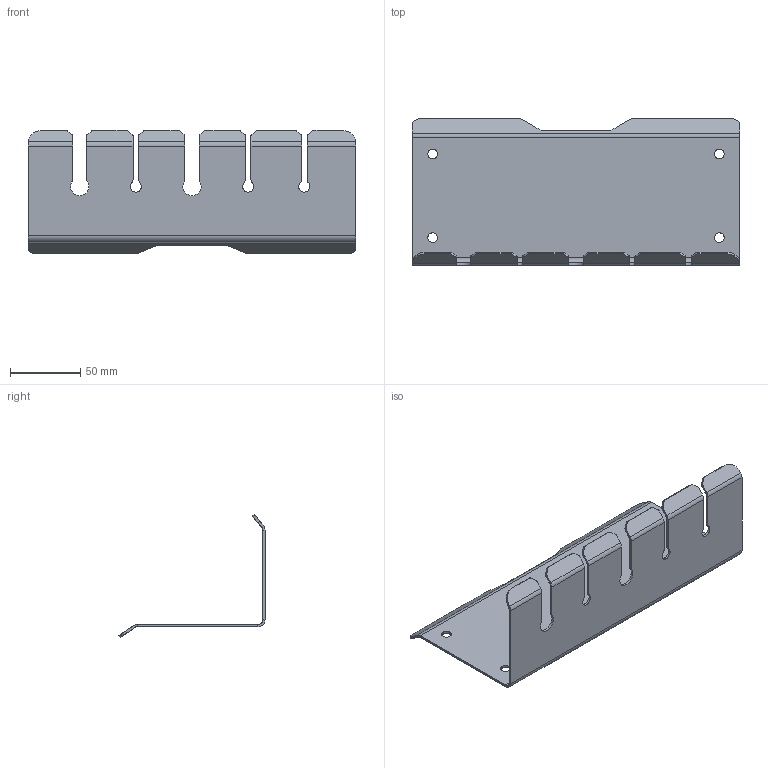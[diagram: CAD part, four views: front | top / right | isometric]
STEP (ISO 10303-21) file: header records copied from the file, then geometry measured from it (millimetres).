
FILE_DESCRIPTION (( 'STEP AP214' ), '1' );
FILE_NAME ('MONO_038-p102_02.STEP', '2026-03-17T07:25:55', ( '' ), ( '' ), 'SwSTEP 2.0', 'SolidWorks 2024', '' );
FILE_SCHEMA (( 'AUTOMOTIVE_DESIGN' ));
Length unit declared in the file: millimetre
Products named in the file (1): MONO_038-p102_02
Bounding box: 232.8 x 104.1 x 87.74 mm (x, y, z)
Volume: 64771.5 mm3; surface area: 83146.3 mm2
Topology: 1 solids, 1 shells, 126 faces, 348 edges, 224 vertices
Faces by surface type: plane 63, cylinder 63
Full cylindrical faces by diameter (mm): 7 x4
Entity records: 4045 total; most frequent: DIRECTION 724, CARTESIAN_POINT 695, ORIENTED_EDGE 688, EDGE_CURVE 344, AXIS2_PLACEMENT_3D 253, VERTEX_POINT 224, LINE 218, VECTOR 218
